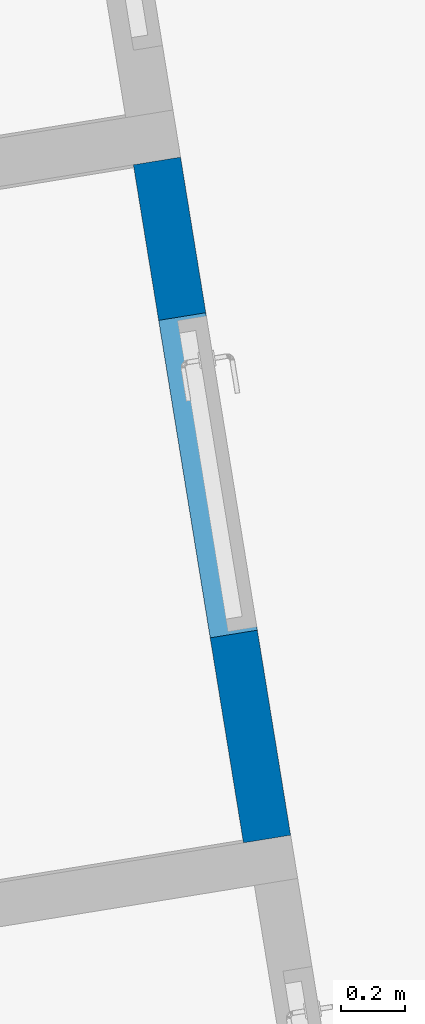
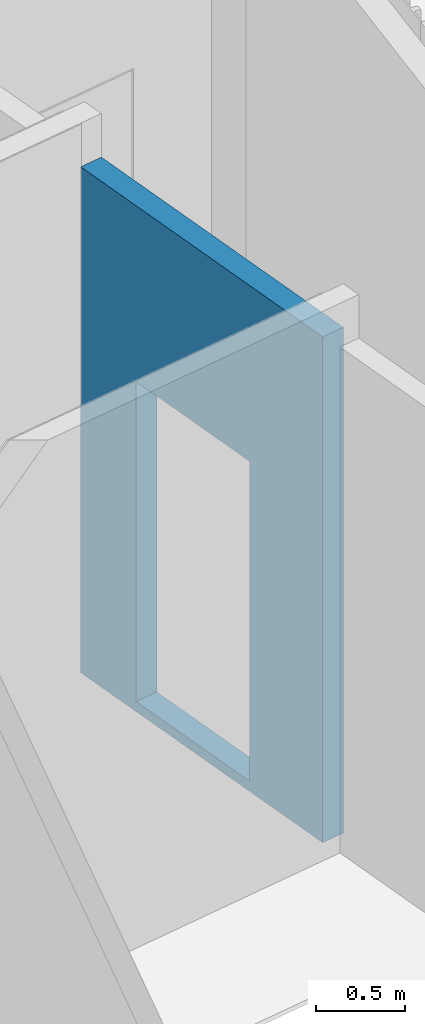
# One storey, part 9 of 23: 1 wall, 2 openings.
"""IFC2X3 building model written with IfcOpenShell, lengths in millimetres."""

from ifc_helpers import new_model, entity, si_unit, converted_unit, derived_unit, direction, frame, frame_2d, origin, origin_with_axes, place, context, subcontext, project, spatial, rectangle, extrude, material, layer, layer_set, layer_usage, type_object, element, save


model = new_model("IFC2X3")

# Units and contexts
plan_context = context("Plan", 3, precision=1e-05, world=origin_with_axes())
model_context = context("Model", 3, precision=0.01, world=origin(), true_north=direction((6.12323399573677e-17, 1.0)))
body_context = subcontext(model_context, "Body", "Model", "MODEL_VIEW")
ifc_project = project(units=[converted_unit("PLANEANGLEUNIT", "DEGREE", entity("IfcPositiveLengthMeasure", 0.0174532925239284), si_unit("PLANEANGLEUNIT", "RADIAN"), dimensions=[0, 0, 0, 0, 0, 0, 0]), si_unit("AREAUNIT", "SQUARE_METRE"), si_unit("LENGTHUNIT", "METRE", prefix="MILLI"), si_unit("MASSUNIT", "GRAM", prefix="KILO"), si_unit("POWERUNIT", "WATT"), si_unit("PRESSUREUNIT", "PASCAL", prefix="KILO"), si_unit("FORCEUNIT", "NEWTON", prefix="KILO"), si_unit("ELECTRICVOLTAGEUNIT", "VOLT"), si_unit("ELECTRICCURRENTUNIT", "AMPERE"), si_unit("THERMODYNAMICTEMPERATUREUNIT", "DEGREE_CELSIUS"), si_unit("TIMEUNIT", "SECOND"), si_unit("VOLUMEUNIT", "CUBIC_METRE"), derived_unit("LINEARVELOCITYUNIT", [(si_unit("LENGTHUNIT", "METRE"), 1), (si_unit("TIMEUNIT", "SECOND"), -1)]), derived_unit("VOLUMETRICFLOWRATEUNIT", [(si_unit("VOLUMEUNIT", "CUBIC_METRE"), 1), (si_unit("TIMEUNIT", "SECOND"), -1)]), derived_unit("THERMALTRANSMITTANCEUNIT", [(si_unit("POWERUNIT", "WATT"), 1), (si_unit("THERMODYNAMICTEMPERATUREUNIT", "KELVIN"), -1), (si_unit("AREAUNIT", "SQUARE_METRE"), -1)]), derived_unit("SOUNDPRESSUREUNIT", [(si_unit("PRESSUREUNIT", "PASCAL"), 1)])], contexts=[model_context, plan_context])

# Site, building, storey
site_placement = place(None, frame((-0.00071070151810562, 0.00438415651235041, 0.0), z_axis=(0.0, 0.0, 1.0), x_axis=(-0.160236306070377, 0.987078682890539, 0.0)))
site = spatial("IfcSite", under=ifc_project, at=site_placement, Name="Default", CompositionType="ELEMENT")
building_placement = place(site_placement, origin_with_axes())
building = spatial("IfcBuilding", under=site, at=building_placement, Name="TOO", CompositionType="ELEMENT")
storey_placement = place(building_placement, frame((0.0, 0.0, 58999.9999999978), z_axis=(0.0, 0.0, 1.0), x_axis=(1.0, 0.0, 0.0)))
storey = spatial("IfcBuildingStorey", under=building, at=storey_placement, Name="Nivå F", CompositionType="ELEMENT", Elevation=58999.9999999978)

# Wall, openings
ifc_material_1 = material(Name="A240 - Gipsplate")
ifc_layer_1 = layer(ifc_material_1, 12.5)
ifc_layer_2 = layer(ifc_material_1, 12.5)
ifc_material_2 = material(Name="A200 - Isolasjon - Rock Wool")
ifc_layer_3 = layer(ifc_material_2, 100.0)
ifc_layer_4 = layer(ifc_material_1, 12.5)
ifc_layer_5 = layer(ifc_material_1, 12.5)
ifc_layer_set = layer_set([ifc_layer_1, ifc_layer_2, ifc_layer_3, ifc_layer_4, ifc_layer_5], Name="Basic Wall:A242 - GG100/100GG")
ifc_layer_usage = layer_usage(ifc_layer_set, "AXIS2", "NEGATIVE", 75.0)
wall_type = type_object("IfcWallType", Name="Basic Wall:A242 - GG100/100GG", PredefinedType="STANDARD", material=ifc_layer_set)
wall_placement = place(storey_placement, frame((768952.619644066, -503904.729552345, -70.0), z_axis=(0.0, 0.0, 1.0), x_axis=(-1.0, 0.0, 0.0)))
wall = element("IfcWallStandardCase", 1, at=wall_placement, inside=storey, type_object=wall_type, material=ifc_layer_usage, Name="Basic Wall:A242 - GG100/100GG", ObjectType="Basic Wall:A242 - GG100/100GG", context=body_context, shape_type="SweptSolid", body=[
    extrude(rectangle(XDim=2157.25000000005, YDim=150.000000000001, at=frame_2d((1078.62500000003, -3.82485154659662e-11), x_axis=(-1.0, 0.0))), origin(), (0.0, 0.0, 1.0), 3480.00000000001),
])
opening_1_placement = place(wall_placement, frame((495.0, -75.0000000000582, 70.0), z_axis=(0.0, 0.0, 1.0), x_axis=(1.0, 0.0, 0.0)))
element("IfcOpeningElement", 2, at=opening_1_placement, cuts=wall, Name="A200 - Slagdør - Enfløyet:A244 - DI_LSO - 0990 x 2190 mm:1", ObjectType="Opening", shape_type="SweptSolid", body=[
    extrude(rectangle(XDim=2199.99999999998, YDim=1010.0, at=frame_2d((1099.99999999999, 504.999999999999), x_axis=(1.0, 0.0))), frame((0.0, 0.0, 0.0), z_axis=(0.0, 1.0, 0.0), x_axis=(0.0, 0.0, 1.0)), (0.0, 0.0, 1.0), 150.0),
])
opening_2_placement = place(wall_placement, frame((768952.619644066, -503904.729552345, 70.0), z_axis=(0.0, 0.0, 1.0), x_axis=(-1.0, 0.0, 0.0)))
element("IfcOpeningElement", 3, at=opening_2_placement, cuts=wall, Name="Basic Wall:A242 - GG100/100GG", ObjectType="Opening", context=body_context, shape_type="SweptSolid", body=[
    extrude(rectangle(XDim=2199.99999999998, YDim=1009.99999999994, at=frame_2d((6.93205493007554e-11, 0.0), x_axis=(0.0, 1.0))), frame((767952.619644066, -502305.729552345, 1100.0), z_axis=(0.0, -1.0, 0.0), x_axis=(1.0, 0.0, 0.0)), (0.0, 0.0, 1.0), 3048.0),
])

save(model, "model.ifc")
